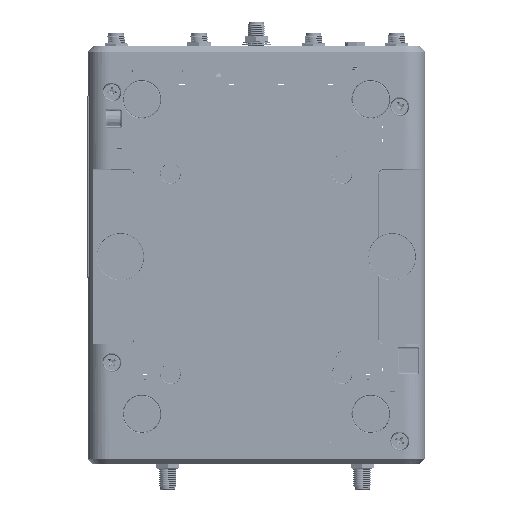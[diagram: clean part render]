
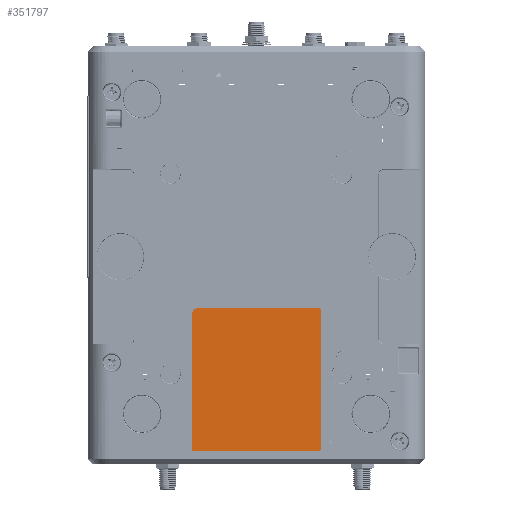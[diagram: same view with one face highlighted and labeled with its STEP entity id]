
A CAD part, front view. The second image highlights one B-rep face of the part: STEP entity #351797.
In plain terms, the highlighted planar face has unit normal (0, -1, 0).
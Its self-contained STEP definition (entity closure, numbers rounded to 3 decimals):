
#327920 = VERTEX_POINT('',#327921);
#327921 = CARTESIAN_POINT('',(-8.29,-12.552,-68.));
#327939 = VERTEX_POINT('',#327940);
#327940 = CARTESIAN_POINT('',(-8.79,-12.552,-67.5));
#327946 = EDGE_CURVE('',#327939,#327920,#327947,.T.);
#327947 = CIRCLE('',#327948,0.5);
#327948 = AXIS2_PLACEMENT_3D('',#327949,#327950,#327951);
#327949 = CARTESIAN_POINT('',(-8.29,-12.552,-67.5));
#327950 = DIRECTION('',(0.,-1.,0.));
#327951 = DIRECTION('',(1.,0.,0.));
#328088 = VERTEX_POINT('',#328089);
#328089 = CARTESIAN_POINT('',(35.71,-12.552,-18.));
#328107 = VERTEX_POINT('',#328108);
#328108 = CARTESIAN_POINT('',(36.21,-12.552,-18.5));
#328114 = EDGE_CURVE('',#328107,#328088,#328115,.T.);
#328115 = CIRCLE('',#328116,0.5);
#328116 = AXIS2_PLACEMENT_3D('',#328117,#328118,#328119);
#328117 = CARTESIAN_POINT('',(35.71,-12.552,-18.5));
#328118 = DIRECTION('',(0.,-1.,0.));
#328119 = DIRECTION('',(1.,0.,0.));
#328130 = VERTEX_POINT('',#328131);
#328131 = CARTESIAN_POINT('',(36.21,-12.552,-67.5));
#328149 = VERTEX_POINT('',#328150);
#328150 = CARTESIAN_POINT('',(35.71,-12.552,-68.));
#328156 = EDGE_CURVE('',#328149,#328130,#328157,.T.);
#328157 = CIRCLE('',#328158,0.5);
#328158 = AXIS2_PLACEMENT_3D('',#328159,#328160,#328161);
#328159 = CARTESIAN_POINT('',(35.71,-12.552,-67.5));
#328160 = DIRECTION('',(0.,-1.,0.));
#328161 = DIRECTION('',(1.,0.,0.));
#351797 = ADVANCED_FACE('',(#351798),#351838,.T.);
#351798 = FACE_BOUND('',#351799,.T.);
#351799 = EDGE_LOOP('',(#351800,#351806,#351807,#351813,#351814,#351822,
    #351831,#351837));
#351800 = ORIENTED_EDGE('',*,*,#351801,.T.);
#351801 = EDGE_CURVE('',#327920,#328149,#351802,.T.);
#351802 = LINE('',#351803,#351804);
#351803 = CARTESIAN_POINT('',(-8.79,-12.552,-68.));
#351804 = VECTOR('',#351805,1.);
#351805 = DIRECTION('',(1.,0.,0.));
#351806 = ORIENTED_EDGE('',*,*,#328156,.T.);
#351807 = ORIENTED_EDGE('',*,*,#351808,.T.);
#351808 = EDGE_CURVE('',#328130,#328107,#351809,.T.);
#351809 = LINE('',#351810,#351811);
#351810 = CARTESIAN_POINT('',(36.21,-12.552,-68.));
#351811 = VECTOR('',#351812,1.);
#351812 = DIRECTION('',(0.,0.,1.));
#351813 = ORIENTED_EDGE('',*,*,#328114,.T.);
#351814 = ORIENTED_EDGE('',*,*,#351815,.T.);
#351815 = EDGE_CURVE('',#328088,#351816,#351818,.T.);
#351816 = VERTEX_POINT('',#351817);
#351817 = CARTESIAN_POINT('',(-6.79,-12.552,-18.));
#351818 = LINE('',#351819,#351820);
#351819 = CARTESIAN_POINT('',(36.21,-12.552,-18.));
#351820 = VECTOR('',#351821,1.);
#351821 = DIRECTION('',(-1.,0.,0.));
#351822 = ORIENTED_EDGE('',*,*,#351823,.T.);
#351823 = EDGE_CURVE('',#351816,#351824,#351826,.T.);
#351824 = VERTEX_POINT('',#351825);
#351825 = CARTESIAN_POINT('',(-8.79,-12.552,-20.));
#351826 = CIRCLE('',#351827,2.);
#351827 = AXIS2_PLACEMENT_3D('',#351828,#351829,#351830);
#351828 = CARTESIAN_POINT('',(-6.79,-12.552,-20.));
#351829 = DIRECTION('',(0.,-1.,0.));
#351830 = DIRECTION('',(1.,0.,0.));
#351831 = ORIENTED_EDGE('',*,*,#351832,.T.);
#351832 = EDGE_CURVE('',#351824,#327939,#351833,.T.);
#351833 = LINE('',#351834,#351835);
#351834 = CARTESIAN_POINT('',(-8.79,-12.552,-20.));
#351835 = VECTOR('',#351836,1.);
#351836 = DIRECTION('',(0.,0.,-1.));
#351837 = ORIENTED_EDGE('',*,*,#327946,.T.);
#351838 = PLANE('',#351839);
#351839 = AXIS2_PLACEMENT_3D('',#351840,#351841,#351842);
#351840 = CARTESIAN_POINT('',(-6.79,-12.552,-20.));
#351841 = DIRECTION('',(0.,-1.,0.));
#351842 = DIRECTION('',(0.,0.,-1.));
